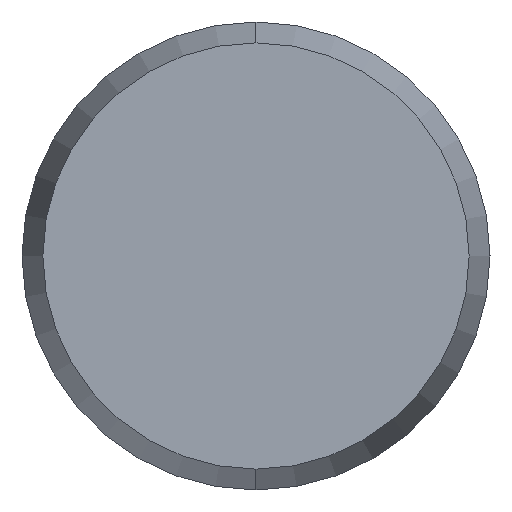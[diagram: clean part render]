
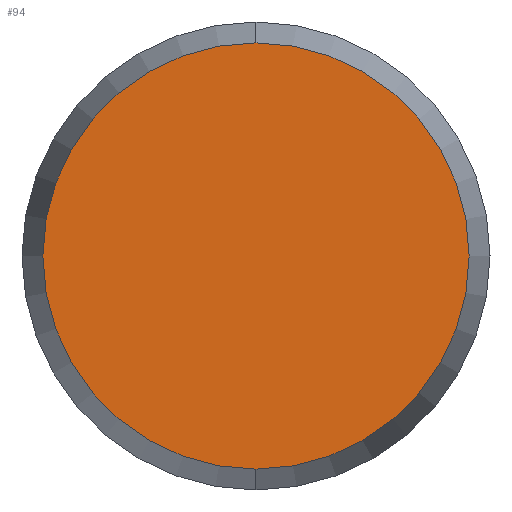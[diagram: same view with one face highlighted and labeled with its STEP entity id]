
A CAD part, left-side view. The second image highlights one B-rep face of the part: STEP entity #94.
In plain terms, the highlighted planar face has unit normal (-1, 0, 0).
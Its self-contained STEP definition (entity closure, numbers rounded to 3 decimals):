
#1 = DIRECTION ( 'NONE',  ( 0., 0., -1. ) ) ;
#2 = DIRECTION ( 'NONE',  ( 1., 0., 0. ) ) ;
#3 = CARTESIAN_POINT ( 'NONE',  ( -12., 0., 0. ) ) ;
#21 = DIRECTION ( 'NONE',  ( 0., 0., -1. ) ) ;
#22 = DIRECTION ( 'NONE',  ( 1., 0., 0. ) ) ;
#23 = CARTESIAN_POINT ( 'NONE',  ( -12., 0., 0. ) ) ;
#24 = AXIS2_PLACEMENT_3D ( 'NONE', #23, #22, #21 ) ;
#25 = CIRCLE ( 'NONE', #24, 1.366 ) ;
#47 = EDGE_CURVE ( 'NONE', #77, #81, #25, .T. ) ;
#56 = CARTESIAN_POINT ( 'NONE',  ( -12., 0., 1.366 ) ) ;
#57 = DIRECTION ( 'NONE',  ( 0., 0., -1. ) ) ;
#58 = DIRECTION ( 'NONE',  ( 1., 0., 0. ) ) ;
#59 = CARTESIAN_POINT ( 'NONE',  ( -12., 0., 0. ) ) ;
#60 = AXIS2_PLACEMENT_3D ( 'NONE', #59, #58, #57 ) ;
#61 = CIRCLE ( 'NONE', #60, 1.366 ) ;
#63 = CARTESIAN_POINT ( 'NONE',  ( -12., 0., -1.366 ) ) ;
#77 = VERTEX_POINT ( 'NONE', #63 ) ;
#80 = EDGE_CURVE ( 'NONE', #81, #77, #61, .T. ) ;
#81 = VERTEX_POINT ( 'NONE', #56 ) ;
#94 = ADVANCED_FACE ( 'NONE', ( #138 ), #145, .F. ) ;
#95 = EDGE_LOOP ( 'NONE', ( #96, #97 ) ) ;
#96 = ORIENTED_EDGE ( 'NONE', *, *, #80, .F. ) ;
#97 = ORIENTED_EDGE ( 'NONE', *, *, #47, .F. ) ;
#138 = FACE_OUTER_BOUND ( 'NONE', #95, .T. ) ;
#144 = AXIS2_PLACEMENT_3D ( 'NONE', #3, #2, #1 ) ;
#145 = PLANE ( 'NONE',  #144 ) ;
